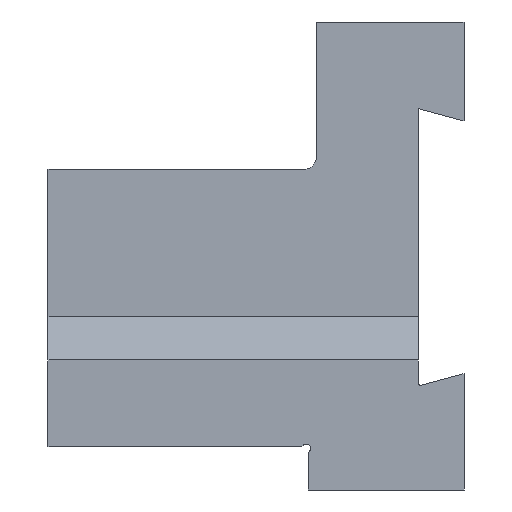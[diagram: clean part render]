
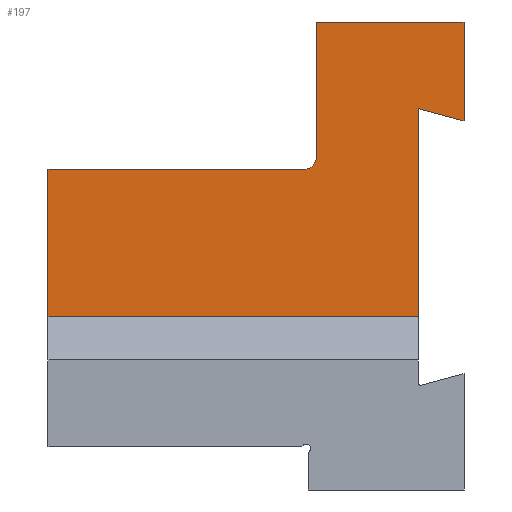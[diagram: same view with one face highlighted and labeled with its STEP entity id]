
A CAD part, front view. The second image highlights one B-rep face of the part: STEP entity #197.
In plain terms, the highlighted planar face has unit normal (0, -1, 0).
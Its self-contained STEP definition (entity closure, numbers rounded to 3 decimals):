
#187=CIRCLE('',#633,1.5);
#197=ADVANCED_FACE('',(#240),#220,.F.);
#220=PLANE('',#634);
#240=FACE_OUTER_BOUND('',#263,.T.);
#263=EDGE_LOOP('',(#306,#307,#308,#309,#310,#311,#312,#313,#314));
#306=ORIENTED_EDGE('',*,*,#455,.F.);
#307=ORIENTED_EDGE('',*,*,#467,.T.);
#308=ORIENTED_EDGE('',*,*,#468,.F.);
#309=ORIENTED_EDGE('',*,*,#469,.F.);
#310=ORIENTED_EDGE('',*,*,#470,.T.);
#311=ORIENTED_EDGE('',*,*,#471,.F.);
#312=ORIENTED_EDGE('',*,*,#459,.T.);
#313=ORIENTED_EDGE('',*,*,#460,.T.);
#314=ORIENTED_EDGE('',*,*,#449,.T.);
#407=VERTEX_POINT('',#775);
#408=VERTEX_POINT('',#776);
#412=VERTEX_POINT('',#786);
#414=VERTEX_POINT('',#791);
#416=VERTEX_POINT('',#795);
#421=VERTEX_POINT('',#812);
#422=VERTEX_POINT('',#814);
#423=VERTEX_POINT('',#816);
#424=VERTEX_POINT('',#818);
#449=EDGE_CURVE('',#407,#408,#512,.T.);
#455=EDGE_CURVE('',#412,#408,#518,.T.);
#459=EDGE_CURVE('',#414,#416,#522,.T.);
#460=EDGE_CURVE('',#416,#407,#523,.T.);
#467=EDGE_CURVE('',#412,#421,#187,.T.);
#468=EDGE_CURVE('',#422,#421,#529,.T.);
#469=EDGE_CURVE('',#423,#422,#530,.T.);
#470=EDGE_CURVE('',#423,#424,#531,.T.);
#471=EDGE_CURVE('',#414,#424,#532,.T.);
#512=LINE('',#774,#569);
#518=LINE('',#787,#575);
#522=LINE('',#796,#579);
#523=LINE('',#798,#580);
#529=LINE('',#813,#586);
#530=LINE('',#815,#587);
#531=LINE('',#817,#588);
#532=LINE('',#819,#589);
#569=VECTOR('',#658,1.);
#575=VECTOR('',#666,1.);
#579=VECTOR('',#672,1.);
#580=VECTOR('',#675,1.);
#586=VECTOR('',#689,1.);
#587=VECTOR('',#690,1.);
#588=VECTOR('',#691,1.);
#589=VECTOR('',#692,1.);
#633=AXIS2_PLACEMENT_3D('',#811,#687,#688);
#634=AXIS2_PLACEMENT_3D('',#820,#693,#694);
#658=DIRECTION('',(-1.,0.,0.));
#666=DIRECTION('',(0.,0.,1.));
#672=DIRECTION('',(0.966,0.,-0.259));
#675=DIRECTION('',(0.,0.,1.));
#687=DIRECTION('',(0.,1.,0.));
#688=DIRECTION('',(0.,0.,-1.));
#689=DIRECTION('',(1.,0.,0.));
#690=DIRECTION('',(0.,0.,1.));
#691=DIRECTION('',(1.,0.,0.));
#692=DIRECTION('',(0.,0.,-1.));
#693=DIRECTION('',(0.,1.,0.));
#694=DIRECTION('',(0.,0.,1.));
#774=CARTESIAN_POINT('',(5.3,-5.,9.625));
#775=CARTESIAN_POINT('',(5.3,-5.,9.625));
#776=CARTESIAN_POINT('',(-11.7,-5.,9.625));
#786=CARTESIAN_POINT('',(-11.7,-5.,-5.875));
#787=CARTESIAN_POINT('',(-11.7,-5.,9.625));
#791=CARTESIAN_POINT('',(0.,-5.,-0.374));
#795=CARTESIAN_POINT('',(5.3,-5.,-1.794));
#796=CARTESIAN_POINT('',(-0.698,-5.,-0.187));
#798=CARTESIAN_POINT('',(5.3,-5.,-1.794));
#811=CARTESIAN_POINT('',(-13.2,-5.,-5.875));
#812=CARTESIAN_POINT('',(-13.2,-5.,-7.375));
#813=CARTESIAN_POINT('',(-11.7,-5.,-7.375));
#814=CARTESIAN_POINT('',(-42.7,-5.,-7.375));
#815=CARTESIAN_POINT('',(-42.7,-5.,-7.375));
#816=CARTESIAN_POINT('',(-42.7,-5.,-24.375));
#817=CARTESIAN_POINT('',(95.,-5.,-24.375));
#818=CARTESIAN_POINT('',(0.,-5.,-24.375));
#819=CARTESIAN_POINT('',(0.,-5.,-32.375));
#820=CARTESIAN_POINT('',(-11.7,-5.,-3.135));
